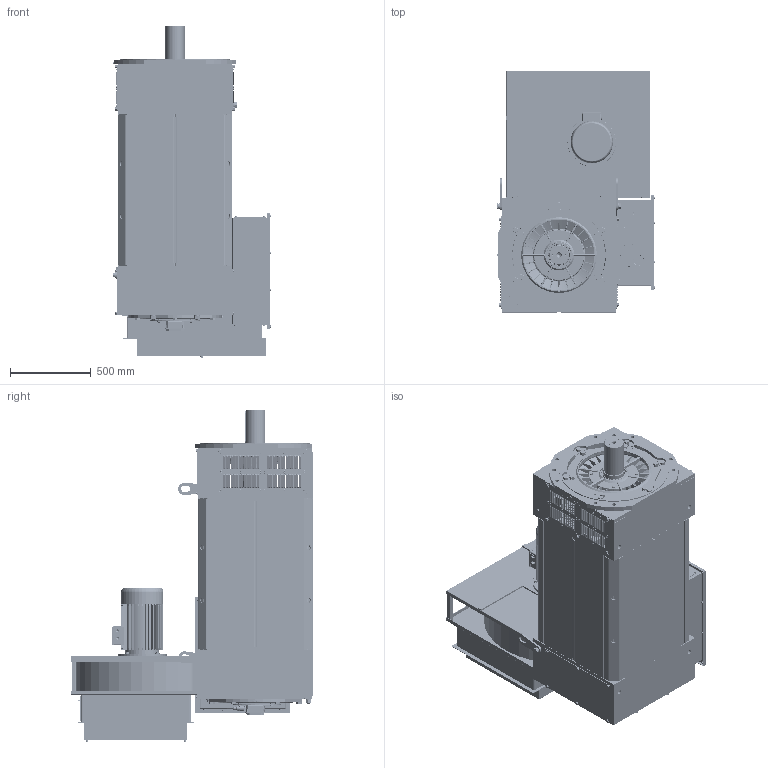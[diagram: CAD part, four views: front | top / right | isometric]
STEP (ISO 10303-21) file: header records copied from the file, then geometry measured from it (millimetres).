
FILE_DESCRIPTION (( 'STEP AP214' ), '1' );
FILE_NAME ('355_P_HQLa.STEP', '2023-01-21T09:10:18', ( '' ), ( '' ), 'SwSTEP 2.0', 'SolidWorks 2022', '' );
FILE_SCHEMA (( 'AUTOMOTIVE_DESIGN' ));
Length unit declared in the file: millimetre
Products named in the file (52): slotted set screw flat point_iso_ISO 4766 - M10 x 50-N; hex nut style 1 gradeab_din_Hexagon Nut ISO 4032 - M20 - W - N; 3YU355PCA; 3DU355PCA; 3CU355PFA; INGRASSATORE_M8; 3YU335PMA_M; curved spring lock washer_din_Spring washer DIN 128 - A20; hex screw gradeab_din_DIN EN 24017 - M20 x 40-N; plain washer normal grade c_iso_Washer ISO 7091 - 20; 3MU355PPA; 3ANELLO_TENUTA_130_160_12; pan head cross recess screw_iso_ISO 7045 - M5 x 10 - Z - 10N; 3YU355PLA; circlip for shafts normal_din_Circlip DIN 471 - 130 x 4; plain washer chamfered grade a_iso_Washer ISO 7090 - 8; hex bolt gradeb_iso_ISO 4015 - M20 x 65 x 46-N; 3PZ014PAA; hex screw gradec_din_DIN EN 24018 - M10 x 100-WN; hex screw gradec_iso_ISO 4018 - M8 x 20-WN; CASTELLO_FILTRO_885x720x283; 3AU355CAA_P; 3YU355PHA; 3connettore10pin; TAPPO_66; 355_P_HQLa; 3CU355PEA; socket head cap screw_iso_ISO 4762 M3 x 6 - 6N; 3DU355PGA_POST; 3DU355PGA_ANT; TIRANTE_M20_L1015; plain washer normal grade c_iso_Washer ISO 7091 - 8; 3ZJ280PAA; hex nut style 2 gradeab_iso_ISO - 4033 - M10 - W - N; FILTRO_700x630x100; 3PU355PBA; parallel_din_Parallel key A32 x 18 x 200 DIN 6885; hex nut style 2 gradeab_iso_ISO - 4033 - M5 - W - N; 3CONN10PIN; 3WU355PAA_P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
Assembly tree (211 placements, depth 2):
  355_P_HQLa
    3WU355PHA_P
    3YU355PAA  x2
    3CU355PEA
    3WU355PAA_P  x4
    3AU355CAA_P
    3DU355PCA
    3DU355PGA_ANT
    NU_226EC_SKF  x2
    6226_SKF
    parallel_din_Parallel key A32 x 18 x 200 DIN 6885
    3ZJ280PAA  x2
    circlip for shafts normal_din_Circlip DIN 471 - 130 x 4  x2
    3CU355PFA
    3DU355PGA_POST
    3PZ014PAA
    3YU335PMA_M
    3connettore10pin
    3CONN10PIN
    slotted set screw flat point_iso_ISO 4766 - M10 x 50-N  x4
    hex nut style 2 gradeab_iso_ISO - 4033 - M10 - W - N  x12
    pan head cross recess screw_iso_ISO 7045 - M5 x 10 - Z - 10N  x4
    socket head cap screw_iso_ISO 4762 M3 x 6 - 6N  x3
    3MU355PPA
    FILTRO_700x630x100
    CASTELLO_FILTRO_885x720x283
    MOTORE_3F_7.5Kw_400v_50Hz
    3PU355PAA
    3PU355PBA
    plain washer normal grade c_iso_Washer ISO 7091 - 5  x2
    hex nut style 2 gradeab_iso_ISO - 4033 - M5 - W - N  x2
    3YU355PCA  x2
    3YU355PHA  x2
    3YU355PLA
    3ANELLO_TENUTA_130_160_12
    TAPPO_66  x6
    plain washer normal grade c_iso_Washer ISO 7091 - 8  x24
    hex screw gradec_iso_ISO 4018 - M8 x 20-WN  x24
    plain washer normal grade c_iso_Washer ISO 7091 - 20  x21
    curved spring lock washer_din_Spring washer DIN 128 - A22  x3
    hex screw gradeab_din_DIN EN 24017 - M20 x 40-N  x3
    plain washer normal grade c_iso_Washer ISO 7091 - 10  x14
    hex screw gradec_iso_ISO 4018 - M10 x 20-NN  x14
    hex bolt gradeb_iso_ISO 4015 - M20 x 65 x 46-N  x18
    TIRANTE_M20_L1015  x2
    curved spring lock washer_din_Spring washer DIN 128 - A20  x2
    hex nut style 1 gradeab_din_Hexagon Nut ISO 4032 - M20 - W - N  x2
    curved spring lock washer_din_Spring washer DIN 128 - A10  x4
    hex screw gradec_din_DIN EN 24018 - M10 x 100-WN  x4
    INGRASSATORE_M8  x2
    plain washer chamfered grade a_iso_Washer ISO 7090 - 8  x2
    hex screw gradeab fine_iso_ISO 8676 - M8x1.0 x 16-N  x2
Bounding box: 981.98 x 1495 x 2053 mm (x, y, z)
Volume: 297397961.9 mm3; surface area: 45175726.2 mm2
Topology: 311 solids, 362 shells, 10922 faces, 26995 edges, 17137 vertices
Faces by surface type: plane 5583, cylinder 3427, cone 1033, bspline 499, torus 285, sphere 95
Full cylindrical faces by diameter (mm): 1.5 x10, 3 x3, 3.2 x4, 3.3 x1, 4 x4, 4.2 x2, 5 x13, 5.5 x11, 6 x1, 6.5 x12, 6.8 x24, 7 x4, 8 x40, 8.4 x2, 8.5 x52, 8.8 x2, 9 x24, 9.5 x4, 10 x120, 10.5 x2, 11 x57, 12 x50, 12.5 x16, 13 x26, 14 x9, 16 x45, 16.3 x8, 17 x6, 17.5 x38, 18.313 x4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
Entity records: 230712 total; most frequent: CARTESIAN_POINT 63436, ORIENTED_EDGE 32624, DIRECTION 32359, EDGE_CURVE 16334, AXIS2_PLACEMENT_3D 11623, VERTEX_POINT 10999, LINE 9113, VECTOR 9113
